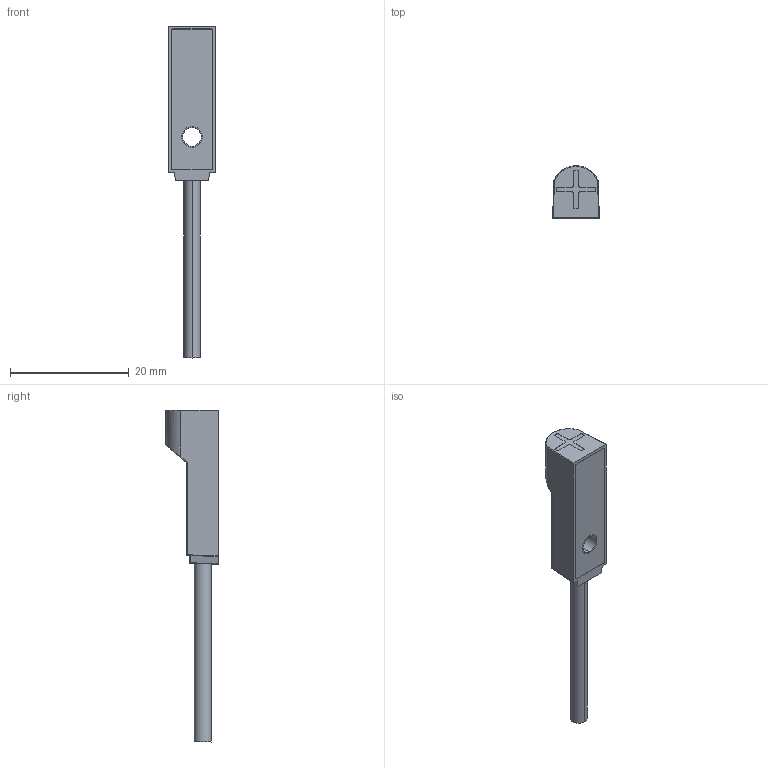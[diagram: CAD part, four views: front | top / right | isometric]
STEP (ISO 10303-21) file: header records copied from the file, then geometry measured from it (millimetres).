
FILE_DESCRIPTION (( 'STEP AP203' ), '1' );
FILE_NAME ('SL-8H¡õ.STE', '2020-10-23T09:19:32', ( '' ), ( '' ), 'SwSTEP 2.0', 'SolidWorks 2020', '' );
FILE_SCHEMA (( 'CONFIG_CONTROL_DESIGN' ));
Length unit declared in the file: millimetre
Products named in the file (1): SL-8H¡õ__
Bounding box: 7.9 x 8.8 x 55.96 mm (x, y, z)
Volume: 1345.3 mm3; surface area: 1230.3 mm2
Topology: 1 solids, 1 shells, 81 faces, 205 edges, 128 vertices
Faces by surface type: plane 37, cylinder 31, sphere 8, bspline 4, torus 1
Entity records: 2531 total; most frequent: CARTESIAN_POINT 531, DIRECTION 404, ORIENTED_EDGE 402, EDGE_CURVE 201, AXIS2_PLACEMENT_3D 141, VERTEX_POINT 128, VECTOR 122, LINE 122
